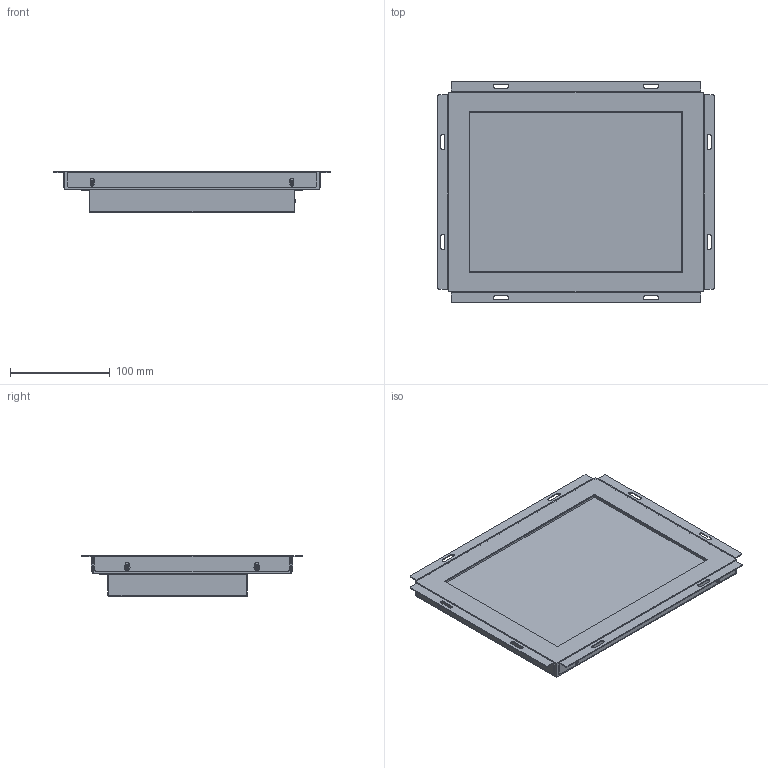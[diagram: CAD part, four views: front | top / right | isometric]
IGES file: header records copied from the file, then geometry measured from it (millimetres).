
Global section: file name: FIE104LMH-P; native system: AutoCAD 2019 – 繁體中文 (Traditional Chinese),62HAutode; preprocessor: sk Translation Framework DWG producer (atf_dwg_producer); organization: unknown; date: 20210623.133609; units: millimetre
Bounding box: 277 x 222 x 40.42 mm (x, y, z)
Volume: 483965.2 mm3; surface area: 513978.2 mm2
Topology: 21 solids, 21 shells, 2190 faces, 5952 edges, 4054 vertices
Faces by surface type: bspline 2190
